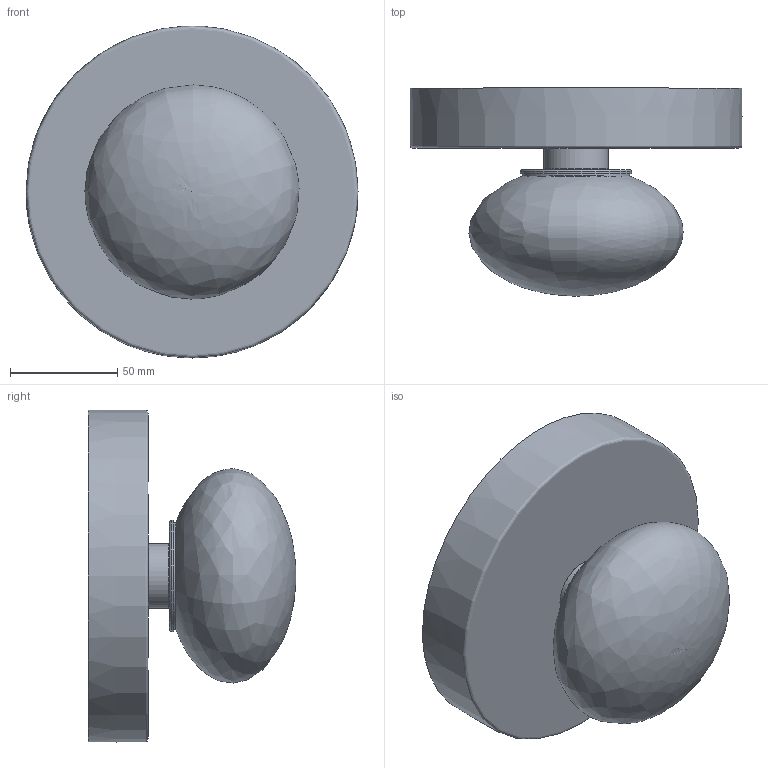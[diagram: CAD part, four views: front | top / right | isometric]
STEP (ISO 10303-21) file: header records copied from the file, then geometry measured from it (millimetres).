
FILE_DESCRIPTION(/* description */ (''),/* implementation_level */ '2;1');
FILE_NAME(/* name */ 'SkLO_Dot_Sconce_1_LTM02_3D',/* time_stamp */ '2024-10-21T10:21:09+02:00',/* author */ (''),/* organization */ (''),/* preprocessor_version */ 'ST-DEVELOPER v16.5',/* originating_system */ 'Rhino 7.34',/* authorisation */ '');
FILE_SCHEMA (('CONFIG_CONTROL_DESIGN'));
Length unit declared in the file: millimetre
Products named in the file (1): Document
Bounding box: 155 x 97.02 x 155 mm (x, y, z)
Volume: 169386 mm3; surface area: 125424 mm2
Topology: 9 solids, 9 shells, 85 faces, 201 edges, 128 vertices
Faces by surface type: plane 42, cylinder 25, bspline 18
Full cylindrical faces by diameter (mm): 25 x1, 26 x1, 26.613 x1, 27 x1, 27.877 x1, 30 x2, 36 x1, 50 x1, 52 x1, 152.6 x1
Entity records: 3360 total; most frequent: CARTESIAN_POINT 1975, ORIENTED_EDGE 390, EDGE_CURVE 195, VERTEX_POINT 127, EDGE_LOOP 98, ADVANCED_FACE 85, FACE_OUTER_BOUND 85, B_SPLINE_CURVE_WITH_KNOTS 77
